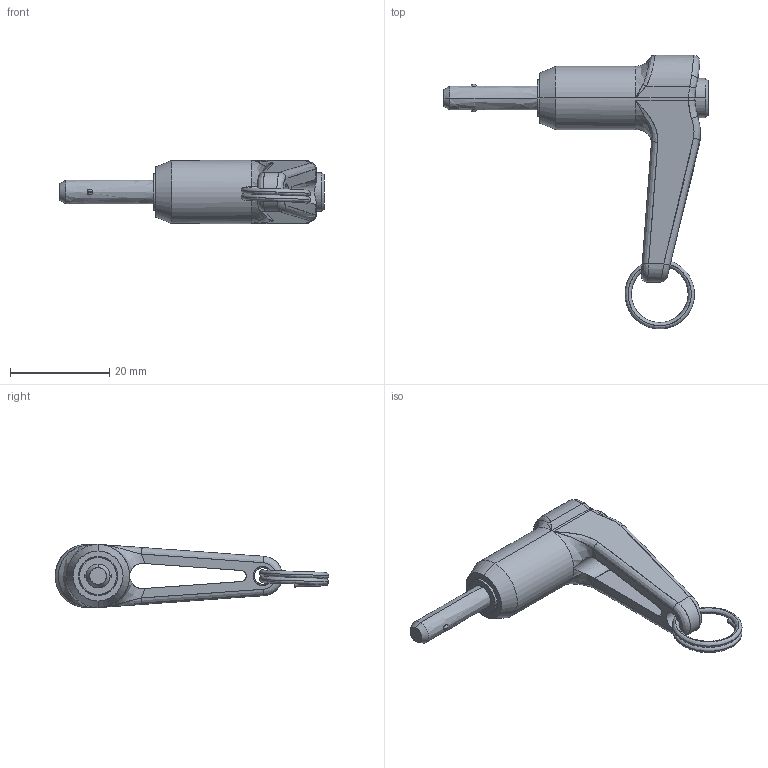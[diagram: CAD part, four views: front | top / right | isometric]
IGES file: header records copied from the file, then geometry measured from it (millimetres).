
Start section: SolidWorks IGES file using analytic representation for surfaces
Global section: file name: C:\Documents and Settings\IANO\My Documents\Wix and Auto CAD Work\CAD Models\Parametric Models\Wix Models\30000\33620_v2\33620_v2_20160606_IGES\33620.A005.igs; native system: SolidWorks 2009; preprocessor: SolidWorks 2009; author: IANO; date: 160615.130248; units: inch
Bounding box: 53.17 x 55.09 x 12.7 mm (x, y, z)
Surface area: 4955.4 mm2 (no closed solid volume)
Topology: 0 solids, 0 shells, 83 faces, 1168 edges, 1166 vertices
Faces by surface type: bspline 53, revolution 30
